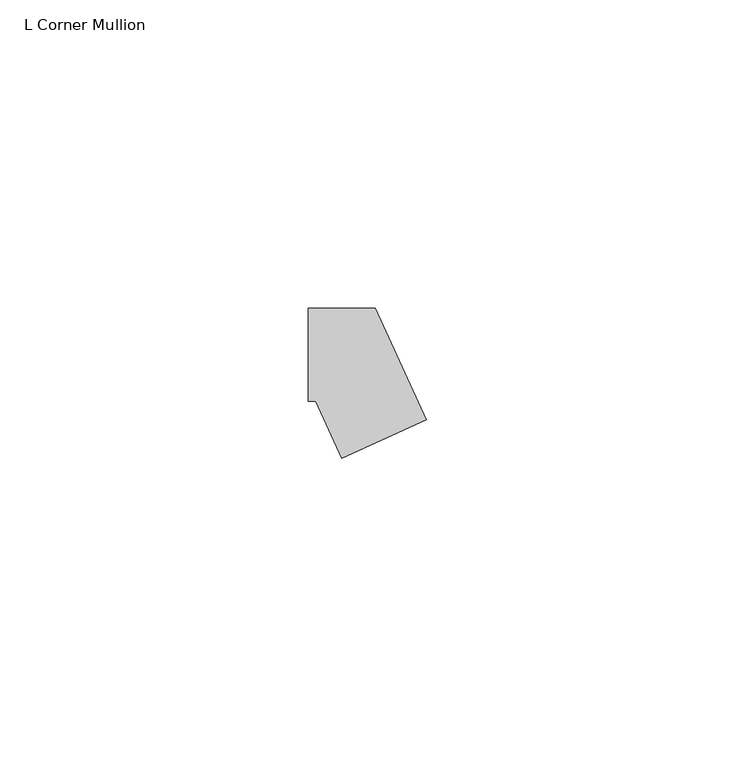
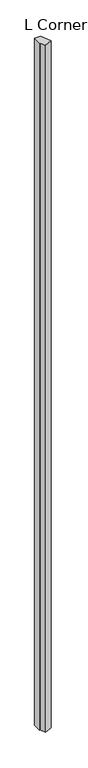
"""IFC4 building model written with IfcOpenShell, lengths in millimetres: member geometry, L Corner Mullion : ARQ_HERR_15X6mm."""

from ifc_helpers import new_model, si_unit, frame, origin, place, context, project, spatial, polyline, outline, extrude, source, transform, mapped, element, save


def l_corner_mullion_ffe6738e(model_context):
    return source(origin(), model_context, "Body", "SweptSolid", [
        extrude(outline(polyline([(-0.5775282, -16.7605627), (-4.8156946, -7.5), (-6.0, -7.5), (-6.0, 7.5), (4.8156946, 7.5), (13.0619332, -10.5183601), (-0.5775282, -16.7605627)])), frame((0.0, 0.0, -1292.1106187), z_axis=(0.0, 0.0, 1.0), x_axis=(1.0, 0.0, 0.0)), (0.0, 0.0, 1.0), 1292.1106187),
    ])


if __name__ == "__main__":
    model = new_model("IFC4")
    model_context = context("Model", 3, world=origin())
    ifc_project = project(units=[si_unit("LENGTHUNIT", "METRE", prefix="MILLI")], contexts=[model_context])
    site = spatial("IfcSite", under=ifc_project)
    building = spatial("IfcBuilding", under=site)
    placement = place(None, origin())
    l_corner_mullion_shape = l_corner_mullion_ffe6738e(model_context)
    element("IfcMember", 1, ObjectType="L Corner Mullion : ARQ_HERR_15X6mm", at=placement, inside=building, context=model_context, shape_type="MappedRepresentation", body=[
        mapped(l_corner_mullion_shape, transform((0.0, 0.0, 0.0), x_axis=(1.0, 0.0, 0.0), y_axis=(0.0, 1.0, 0.0), z_axis=(0.0, 0.0, 1.0))),
    ])
    save(model, "model.ifc")
